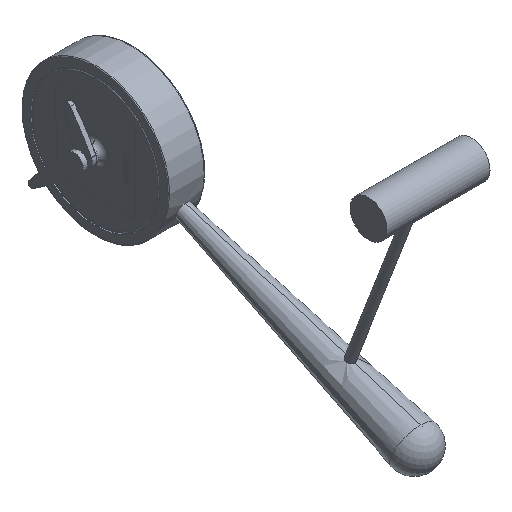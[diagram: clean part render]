
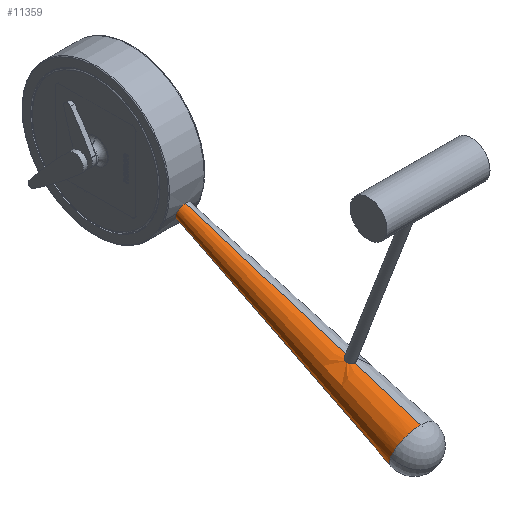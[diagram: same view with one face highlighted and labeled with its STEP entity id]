
A CAD part, isometric view. The second image highlights one B-rep face of the part: STEP entity #11359.
In plain terms, the highlighted conical face has half-angle 3.358 degrees and reference radius 14.974 mm.
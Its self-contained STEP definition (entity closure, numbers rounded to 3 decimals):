
#52 = CARTESIAN_POINT ( 'NONE',  ( 170., 0., 0. ) ) ;
#141 = CIRCLE ( 'NONE', #5281, 5. ) ;
#182 = B_SPLINE_CURVE_WITH_KNOTS ( 'NONE', 3,
 ( #6766, #1269, #2172, #1312, #2210, #10480, #11255, #5991, #7844, #10628, #2294, #6864, #6054, #1492, #2362, #8767, #4251, #7883, #8699, #525, #565, #3282, #5103, #5069, #9680, #3243, #3171, #2393, #4180, #2331, #7807, #6965, #4100, #4210 ),
 .UNSPECIFIED., .F., .F.,
 ( 4, 2, 2, 2, 2, 2, 2, 2, 2, 2, 2, 2, 2, 2, 2, 2, 4 ),
 ( 0.007, 0.008, 0.008, 0.009, 0.009, 0.01, 0.011, 0.011, 0.012, 0.012, 0.013, 0.014, 0.014, 0.015, 0.015, 0.016, 0.017 ),
 .UNSPECIFIED. ) ;
#330 = CARTESIAN_POINT ( 'NONE',  ( 170., 0., 14.974 ) ) ;
#525 = CARTESIAN_POINT ( 'NONE',  ( 119.234, 2.907, -11.638 ) ) ;
#565 = CARTESIAN_POINT ( 'NONE',  ( 119.045, 2.851, -11.641 ) ) ;
#718 = ORIENTED_EDGE ( 'NONE', *, *, #9586, .T. ) ;
#838 = LINE ( 'NONE', #3735, #4872 ) ;
#952 = AXIS2_PLACEMENT_3D ( 'NONE', #1880, #9392, #11195 ) ;
#1269 = CARTESIAN_POINT ( 'NONE',  ( 123., 0.198, -12.217 ) ) ;
#1312 = CARTESIAN_POINT ( 'NONE',  ( 122.904, 0.779, -12.188 ) ) ;
#1492 = CARTESIAN_POINT ( 'NONE',  ( 120.981, 2.842, -11.76 ) ) ;
#1498 = DIRECTION ( 'NONE',  ( -1., 0., 0. ) ) ;
#1880 = CARTESIAN_POINT ( 'NONE',  ( 170., 0., 0. ) ) ;
#2162 = DIRECTION ( 'NONE',  ( 0.998, 0., -0.059 ) ) ;
#2172 = CARTESIAN_POINT ( 'NONE',  ( 122.981, 0.394, -12.211 ) ) ;
#2210 = CARTESIAN_POINT ( 'NONE',  ( 122.845, 0.971, -12.17 ) ) ;
#2262 = VERTEX_POINT ( 'NONE', #330 ) ;
#2276 = VERTEX_POINT ( 'NONE', #6914 ) ;
#2278 = VERTEX_POINT ( 'NONE', #6985 ) ;
#2294 = CARTESIAN_POINT ( 'NONE',  ( 121.835, 2.381, -11.913 ) ) ;
#2331 = CARTESIAN_POINT ( 'NONE',  ( 117.155, 0.97, -11.835 ) ) ;
#2362 = CARTESIAN_POINT ( 'NONE',  ( 120.791, 2.9, -11.734 ) ) ;
#2381 = CARTESIAN_POINT ( 'NONE',  ( 117., 0., -11.865 ) ) ;
#2393 = CARTESIAN_POINT ( 'NONE',  ( 117.4, 1.509, -11.793 ) ) ;
#2636 = ORIENTED_EDGE ( 'NONE', *, *, #9681, .F. ) ;
#2783 = DIRECTION ( 'NONE',  ( -1., 0., 0. ) ) ;
#2792 = CARTESIAN_POINT ( 'NONE',  ( 123., 0., -12.217 ) ) ;
#3171 = CARTESIAN_POINT ( 'NONE',  ( 117.619, 1.835, -11.76 ) ) ;
#3231 = EDGE_CURVE ( 'NONE', #2278, #2276, #141, .T. ) ;
#3243 = CARTESIAN_POINT ( 'NONE',  ( 117.743, 1.986, -11.742 ) ) ;
#3282 = CARTESIAN_POINT ( 'NONE',  ( 118.677, 2.7, -11.655 ) ) ;
#3647 = CARTESIAN_POINT ( 'NONE',  ( 170., 0., 0. ) ) ;
#3735 = CARTESIAN_POINT ( 'NONE',  ( 170., 0., 14.974 ) ) ;
#4041 = CARTESIAN_POINT ( 'NONE',  ( 170., 0., -14.974 ) ) ;
#4100 = CARTESIAN_POINT ( 'NONE',  ( 117., 0.196, -11.865 ) ) ;
#4180 = CARTESIAN_POINT ( 'NONE',  ( 117.305, 1.333, -11.809 ) ) ;
#4210 = CARTESIAN_POINT ( 'NONE',  ( 117., 0., -11.865 ) ) ;
#4251 = CARTESIAN_POINT ( 'NONE',  ( 120.213, 2.999, -11.674 ) ) ;
#4255 = DIRECTION ( 'NONE',  ( 0., 0., 1. ) ) ;
#4526 = DIRECTION ( 'NONE',  ( 0., 0., 1. ) ) ;
#4541 = LINE ( 'NONE', #8566, #11861 ) ;
#4715 = EDGE_CURVE ( 'NONE', #7668, #8256, #4541, .T. ) ;
#4872 = VECTOR ( 'NONE', #10046, 1000. ) ;
#4906 = CARTESIAN_POINT ( 'NONE',  ( 170., 0., -14.974 ) ) ;
#5069 = CARTESIAN_POINT ( 'NONE',  ( 118.177, 2.39, -11.692 ) ) ;
#5087 = CONICAL_SURFACE ( 'NONE', #952, 14.974, 0.059 ) ;
#5103 = CARTESIAN_POINT ( 'NONE',  ( 118.503, 2.607, -11.665 ) ) ;
#5281 = AXIS2_PLACEMENT_3D ( 'NONE', #8771, #1498, #4255 ) ;
#5913 = CARTESIAN_POINT ( 'NONE',  ( 170., 14.974, 0. ) ) ;
#5991 = CARTESIAN_POINT ( 'NONE',  ( 122.385, 1.83, -12.043 ) ) ;
#6054 = CARTESIAN_POINT ( 'NONE',  ( 121.34, 2.691, -11.817 ) ) ;
#6545 = DIRECTION ( 'NONE',  ( -1., 0., 0. ) ) ;
#6597 = CIRCLE ( 'NONE', #9540, 14.974 ) ;
#6766 = CARTESIAN_POINT ( 'NONE',  ( 123., 0., -12.217 ) ) ;
#6864 = CARTESIAN_POINT ( 'NONE',  ( 121.511, 2.599, -11.848 ) ) ;
#6914 = CARTESIAN_POINT ( 'NONE',  ( 0., 0., -5. ) ) ;
#6965 = CARTESIAN_POINT ( 'NONE',  ( 117.019, 0.394, -11.861 ) ) ;
#6985 = CARTESIAN_POINT ( 'NONE',  ( 0., 0., 5. ) ) ;
#7344 = DIRECTION ( 'NONE',  ( 0., 0., 1. ) ) ;
#7588 = ORIENTED_EDGE ( 'NONE', *, *, #9467, .T. ) ;
#7668 = VERTEX_POINT ( 'NONE', #2792 ) ;
#7681 = EDGE_LOOP ( 'NONE', ( #10479, #7588, #11546, #718, #9412, #10954, #2636 ) ) ;
#7793 = FACE_OUTER_BOUND ( 'NONE', #7681, .T. ) ;
#7807 = CARTESIAN_POINT ( 'NONE',  ( 117.097, 0.783, -11.846 ) ) ;
#7814 = VERTEX_POINT ( 'NONE', #5913 ) ;
#7844 = CARTESIAN_POINT ( 'NONE',  ( 122.26, 1.982, -12.012 ) ) ;
#7883 = CARTESIAN_POINT ( 'NONE',  ( 119.819, 3.001, -11.65 ) ) ;
#7921 = AXIS2_PLACEMENT_3D ( 'NONE', #52, #2783, #7344 ) ;
#8128 = VECTOR ( 'NONE', #2162, 1000. ) ;
#8256 = VERTEX_POINT ( 'NONE', #4041 ) ;
#8566 = CARTESIAN_POINT ( 'NONE',  ( 170., 0., -14.974 ) ) ;
#8699 = CARTESIAN_POINT ( 'NONE',  ( 119.62, 2.982, -11.642 ) ) ;
#8767 = CARTESIAN_POINT ( 'NONE',  ( 120.407, 2.979, -11.691 ) ) ;
#8771 = CARTESIAN_POINT ( 'NONE',  ( 0., 0., 0. ) ) ;
#9134 = EDGE_CURVE ( 'NONE', #2262, #7814, #10171, .T. ) ;
#9374 = VERTEX_POINT ( 'NONE', #2381 ) ;
#9392 = DIRECTION ( 'NONE',  ( 1., 0., 0. ) ) ;
#9412 = ORIENTED_EDGE ( 'NONE', *, *, #4715, .F. ) ;
#9467 = EDGE_CURVE ( 'NONE', #2278, #2262, #838, .T. ) ;
#9540 = AXIS2_PLACEMENT_3D ( 'NONE', #3647, #6545, #4526 ) ;
#9568 = LINE ( 'NONE', #4906, #8128 ) ;
#9586 = EDGE_CURVE ( 'NONE', #7814, #8256, #6597, .T. ) ;
#9680 = CARTESIAN_POINT ( 'NONE',  ( 118.022, 2.264, -11.709 ) ) ;
#9681 = EDGE_CURVE ( 'NONE', #2276, #9374, #9568, .T. ) ;
#10046 = DIRECTION ( 'NONE',  ( 0.998, 0., 0.059 ) ) ;
#10171 = CIRCLE ( 'NONE', #7921, 14.974 ) ;
#10450 = DIRECTION ( 'NONE',  ( 0.998, 0., -0.059 ) ) ;
#10479 = ORIENTED_EDGE ( 'NONE', *, *, #3231, .F. ) ;
#10480 = CARTESIAN_POINT ( 'NONE',  ( 122.695, 1.332, -12.127 ) ) ;
#10628 = CARTESIAN_POINT ( 'NONE',  ( 121.987, 2.256, -11.947 ) ) ;
#10908 = EDGE_CURVE ( 'NONE', #7668, #9374, #182, .T. ) ;
#10954 = ORIENTED_EDGE ( 'NONE', *, *, #10908, .T. ) ;
#11195 = DIRECTION ( 'NONE',  ( 0., 0., -1. ) ) ;
#11255 = CARTESIAN_POINT ( 'NONE',  ( 122.603, 1.504, -12.101 ) ) ;
#11359 = ADVANCED_FACE ( 'NONE', ( #7793 ), #5087, .T. ) ;
#11546 = ORIENTED_EDGE ( 'NONE', *, *, #9134, .T. ) ;
#11861 = VECTOR ( 'NONE', #10450, 1000. ) ;
